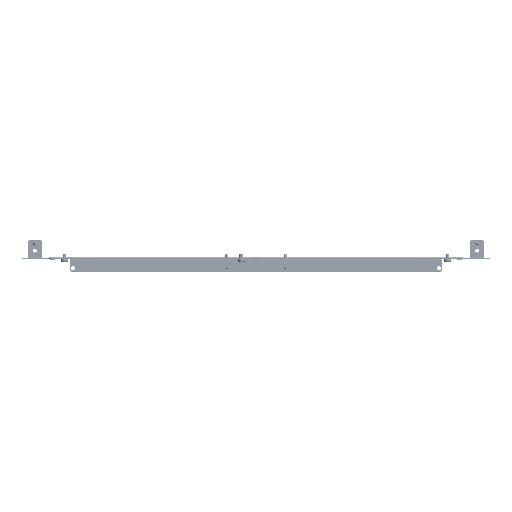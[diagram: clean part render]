
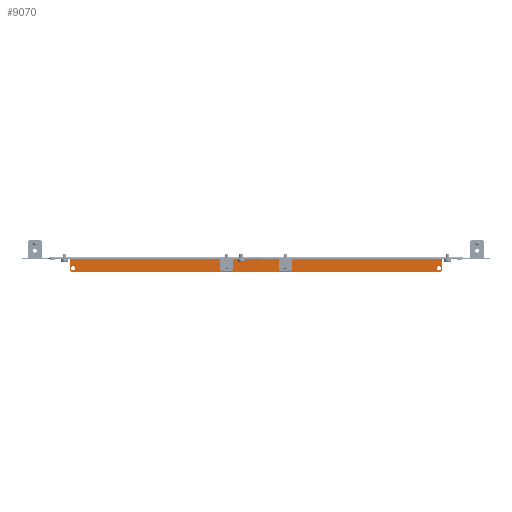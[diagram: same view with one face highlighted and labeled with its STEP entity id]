
A CAD part, left-side view. The second image highlights one B-rep face of the part: STEP entity #9070.
In plain terms, the highlighted planar face has unit normal (-1, 0, 0).
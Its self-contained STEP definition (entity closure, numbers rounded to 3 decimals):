
#681 = CIRCLE ( 'NONE', #51842, 3.45 ) ;
#767 = AXIS2_PLACEMENT_3D ( 'NONE', #119580, #40821, #59385 ) ;
#1313 = CARTESIAN_POINT ( 'NONE',  ( 514.25, -310., -14.8 ) ) ;
#3906 = VERTEX_POINT ( 'NONE', #59509 ) ;
#4101 = EDGE_CURVE ( 'NONE', #43425, #47145, #56198, .T. ) ;
#5372 = CARTESIAN_POINT ( 'NONE',  ( 514.25, 310., -21.7 ) ) ;
#5996 = VECTOR ( 'NONE', #41214, 1000. ) ;
#7278 = AXIS2_PLACEMENT_3D ( 'NONE', #97618, #48941, #116211 ) ;
#7308 = CARTESIAN_POINT ( 'NONE',  ( 514.25, 316., -1.5 ) ) ;
#7960 = EDGE_LOOP ( 'NONE', ( #109997, #20014 ) ) ;
#7969 = FACE_BOUND ( 'NONE', #7960, .T. ) ;
#8207 = DIRECTION ( 'NONE',  ( 0., -0.707, 0.707 ) ) ;
#9070 = ADVANCED_FACE ( 'NONE', ( #7969, #59157, #77129 ), #66247, .T. ) ;
#9806 = CARTESIAN_POINT ( 'NONE',  ( 514.25, -316., -4. ) ) ;
#10326 = EDGE_CURVE ( 'NONE', #55019, #18143, #71004, .T. ) ;
#15770 = AXIS2_PLACEMENT_3D ( 'NONE', #108515, #77147, #115598 ) ;
#16041 = EDGE_CURVE ( 'NONE', #18143, #55019, #35979, .T. ) ;
#18143 = VERTEX_POINT ( 'NONE', #21403 ) ;
#18161 = DIRECTION ( 'NONE',  ( 0., 0., 1. ) ) ;
#18910 = CARTESIAN_POINT ( 'NONE',  ( 514.25, 310., -14.8 ) ) ;
#20014 = ORIENTED_EDGE ( 'NONE', *, *, #10326, .T. ) ;
#20085 = LINE ( 'NONE', #59772, #5996 ) ;
#21403 = CARTESIAN_POINT ( 'NONE',  ( 514.25, -310., -21.7 ) ) ;
#26471 = VERTEX_POINT ( 'NONE', #18910 ) ;
#27444 = CARTESIAN_POINT ( 'NONE',  ( 514.25, -168.25, -169.75 ) ) ;
#29184 = ORIENTED_EDGE ( 'NONE', *, *, #34246, .F. ) ;
#31314 = DIRECTION ( 'NONE',  ( 1., 0., 0. ) ) ;
#32948 = EDGE_CURVE ( 'NONE', #99103, #84096, #52792, .T. ) ;
#34027 = CARTESIAN_POINT ( 'NONE',  ( 514.25, 316., -3. ) ) ;
#34159 = DIRECTION ( 'NONE',  ( 0., 0., 1. ) ) ;
#34246 = EDGE_CURVE ( 'NONE', #48840, #78459, #105293, .T. ) ;
#35428 = LINE ( 'NONE', #94342, #79238 ) ;
#35979 = CIRCLE ( 'NONE', #85078, 3.45 ) ;
#39155 = EDGE_LOOP ( 'NONE', ( #108161, #60090 ) ) ;
#39318 = CARTESIAN_POINT ( 'NONE',  ( 514.25, 316., -22. ) ) ;
#40821 = DIRECTION ( 'NONE',  ( 1., 0., 0. ) ) ;
#41214 = DIRECTION ( 'NONE',  ( 0., 0., 1. ) ) ;
#42229 = DIRECTION ( 'NONE',  ( 1., 0., 0. ) ) ;
#42997 = CARTESIAN_POINT ( 'NONE',  ( 514.25, 316., -25. ) ) ;
#43425 = VERTEX_POINT ( 'NONE', #39318 ) ;
#47145 = VERTEX_POINT ( 'NONE', #47934 ) ;
#47907 = ORIENTED_EDGE ( 'NONE', *, *, #32948, .F. ) ;
#47934 = CARTESIAN_POINT ( 'NONE',  ( 514.25, 313., -25. ) ) ;
#48840 = VERTEX_POINT ( 'NONE', #85750 ) ;
#48941 = DIRECTION ( 'NONE',  ( -1., 0., 0. ) ) ;
#50507 = LINE ( 'NONE', #81851, #60259 ) ;
#50922 = EDGE_CURVE ( 'NONE', #92970, #26471, #681, .T. ) ;
#51030 = ORIENTED_EDGE ( 'NONE', *, *, #92065, .F. ) ;
#51392 = EDGE_CURVE ( 'NONE', #26471, #92970, #113291, .T. ) ;
#51842 = AXIS2_PLACEMENT_3D ( 'NONE', #100515, #42229, #79389 ) ;
#52792 = LINE ( 'NONE', #111737, #59417 ) ;
#54160 = ORIENTED_EDGE ( 'NONE', *, *, #98160, .T. ) ;
#54678 = EDGE_CURVE ( 'NONE', #43425, #48840, #20085, .T. ) ;
#55019 = VERTEX_POINT ( 'NONE', #1313 ) ;
#56198 = LINE ( 'NONE', #85664, #65757 ) ;
#56242 = LINE ( 'NONE', #27444, #120486 ) ;
#59157 = FACE_BOUND ( 'NONE', #39155, .T. ) ;
#59385 = DIRECTION ( 'NONE',  ( 0., 0., -1. ) ) ;
#59417 = VECTOR ( 'NONE', #83518, 1000. ) ;
#59509 = CARTESIAN_POINT ( 'NONE',  ( 514.25, -316., -3. ) ) ;
#59772 = CARTESIAN_POINT ( 'NONE',  ( 514.25, 316., -3. ) ) ;
#60090 = ORIENTED_EDGE ( 'NONE', *, *, #51392, .T. ) ;
#60259 = VECTOR ( 'NONE', #69730, 1000. ) ;
#65757 = VECTOR ( 'NONE', #106134, 1000. ) ;
#66247 = PLANE ( 'NONE',  #7278 ) ;
#69730 = DIRECTION ( 'NONE',  ( 0., -1., 0. ) ) ;
#70425 = VECTOR ( 'NONE', #120498, 1000. ) ;
#71004 = CIRCLE ( 'NONE', #15770, 3.45 ) ;
#71205 = ORIENTED_EDGE ( 'NONE', *, *, #94221, .F. ) ;
#74265 = CARTESIAN_POINT ( 'NONE',  ( 514.25, -313., -25. ) ) ;
#75781 = ORIENTED_EDGE ( 'NONE', *, *, #54678, .F. ) ;
#76594 = ORIENTED_EDGE ( 'NONE', *, *, #83285, .T. ) ;
#77129 = FACE_OUTER_BOUND ( 'NONE', #82842, .T. ) ;
#77147 = DIRECTION ( 'NONE',  ( 1., 0., 0. ) ) ;
#78459 = VERTEX_POINT ( 'NONE', #34027 ) ;
#79238 = VECTOR ( 'NONE', #34159, 1000. ) ;
#79313 = DIRECTION ( 'NONE',  ( 0., 0., -1. ) ) ;
#79389 = DIRECTION ( 'NONE',  ( 0., 0., -1. ) ) ;
#81851 = CARTESIAN_POINT ( 'NONE',  ( 514.25, 0., -3. ) ) ;
#82842 = EDGE_LOOP ( 'NONE', ( #51030, #54160, #47907, #76594, #71205, #29184, #75781, #88134 ) ) ;
#83285 = EDGE_CURVE ( 'NONE', #99103, #3906, #35428, .T. ) ;
#83518 = DIRECTION ( 'NONE',  ( 0., 0., -1. ) ) ;
#84096 = VERTEX_POINT ( 'NONE', #92145 ) ;
#85078 = AXIS2_PLACEMENT_3D ( 'NONE', #99804, #31314, #79313 ) ;
#85664 = CARTESIAN_POINT ( 'NONE',  ( 514.25, 168.25, -169.75 ) ) ;
#85750 = CARTESIAN_POINT ( 'NONE',  ( 514.25, 316., -4. ) ) ;
#88134 = ORIENTED_EDGE ( 'NONE', *, *, #4101, .T. ) ;
#92065 = EDGE_CURVE ( 'NONE', #110658, #47145, #112159, .T. ) ;
#92145 = CARTESIAN_POINT ( 'NONE',  ( 514.25, -316., -22. ) ) ;
#92970 = VERTEX_POINT ( 'NONE', #5372 ) ;
#94221 = EDGE_CURVE ( 'NONE', #78459, #3906, #50507, .T. ) ;
#94342 = CARTESIAN_POINT ( 'NONE',  ( 514.25, -316., -4. ) ) ;
#97618 = CARTESIAN_POINT ( 'NONE',  ( 514.25, 0., -1.5 ) ) ;
#98160 = EDGE_CURVE ( 'NONE', #110658, #84096, #56242, .T. ) ;
#99103 = VERTEX_POINT ( 'NONE', #9806 ) ;
#99804 = CARTESIAN_POINT ( 'NONE',  ( 514.25, -310., -18.25 ) ) ;
#100515 = CARTESIAN_POINT ( 'NONE',  ( 514.25, 310., -18.25 ) ) ;
#105293 = LINE ( 'NONE', #7308, #108517 ) ;
#106134 = DIRECTION ( 'NONE',  ( 0., -0.707, -0.707 ) ) ;
#108161 = ORIENTED_EDGE ( 'NONE', *, *, #50922, .T. ) ;
#108515 = CARTESIAN_POINT ( 'NONE',  ( 514.25, -310., -18.25 ) ) ;
#108517 = VECTOR ( 'NONE', #18161, 1000. ) ;
#109997 = ORIENTED_EDGE ( 'NONE', *, *, #16041, .T. ) ;
#110658 = VERTEX_POINT ( 'NONE', #74265 ) ;
#111737 = CARTESIAN_POINT ( 'NONE',  ( 514.25, -316., -25. ) ) ;
#112159 = LINE ( 'NONE', #42997, #70425 ) ;
#113291 = CIRCLE ( 'NONE', #767, 3.45 ) ;
#115598 = DIRECTION ( 'NONE',  ( 0., 0., -1. ) ) ;
#116211 = DIRECTION ( 'NONE',  ( 0., 1., 0. ) ) ;
#119580 = CARTESIAN_POINT ( 'NONE',  ( 514.25, 310., -18.25 ) ) ;
#120486 = VECTOR ( 'NONE', #8207, 1000. ) ;
#120498 = DIRECTION ( 'NONE',  ( 0., 1., 0. ) ) ;
